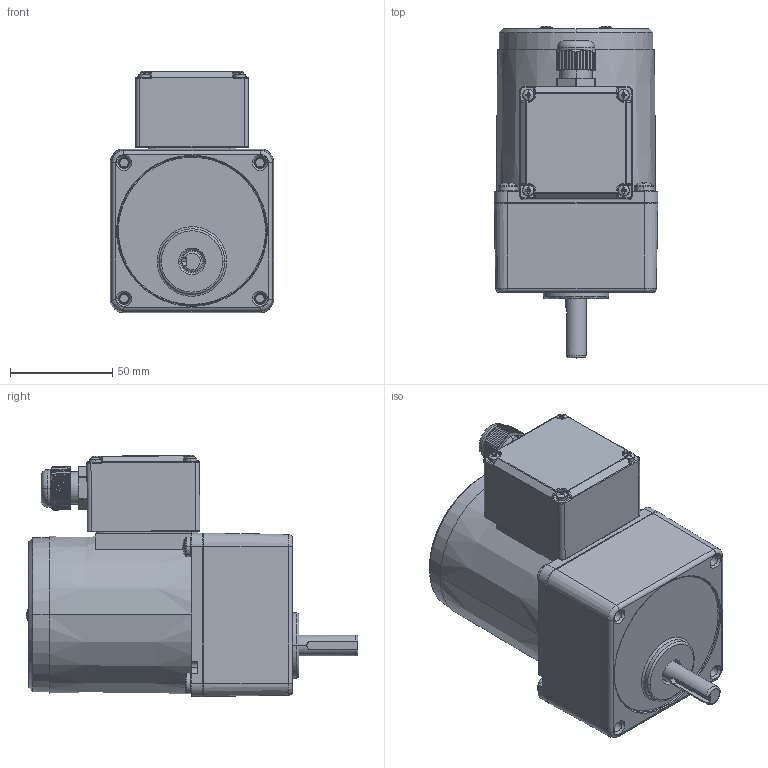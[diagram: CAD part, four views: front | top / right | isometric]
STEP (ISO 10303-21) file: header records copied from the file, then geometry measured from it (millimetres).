
FILE_DESCRIPTION (( 'STEP AP203' ), '1' );
FILE_NAME ('4RK25GN-CT(4GN3K-200K).STEP', '2022-10-28T05:31:47', ( 'Windows User' ), ( 'P R C' ), 'SwSTEP 2.0', 'SolidWorks 2019', '' );
FILE_SCHEMA (( 'CONFIG_CONTROL_DESIGN' ));
Length unit declared in the file: millimetre
Products named in the file (13): 4IK25GN-CT(4GN3K-200K).stp^4RK25GN-CT(4GN3K-200K)(2)_4RK25GN-CT(4GN3K-200K); PRT0011.stp^4IK25GN-CT(4GN3K-200K).stp_4RK25GN-CT(4GN3K-200K)(2)_4RK25GN-CT(4GN3K-200K); 4IK25GN-CT.stp^4IK25GN-CT(4GN3K-200K).stp_4RK25GN-CT(4GN3K-200K)(2)_4RK25GN-CT(4GN3K-200K); M5.stp^4IK25GN-CT(4GN3K-200K).stp_4RK25GN-CT(4GN3K-200K)(2)_4RK25GN-CT(4GN3K-200K); M3^4RK25GN-CT(4GN3K-200K)(2)_4RK25GN-CT(4GN3K-200K); 4RK25GN-CT(4GN3K-200K)(2)^4RK25GN-CT(4GN3K-200K); PRT0012.stp^4IK25GN-CT(4GN3K-200K).stp_4RK25GN-CT(4GN3K-200K)(2)_4RK25GN-CT(4GN3K-200K); M3.stp^4IK25GN-CT(4GN3K-200K).stp_4RK25GN-CT(4GN3K-200K)(2)_4RK25GN-CT(4GN3K-200K); SJQ.stp^4IK25GN-CT(4GN3K-200K).stp_4RK25GN-CT(4GN3K-200K)(2)_4RK25GN-CT(4GN3K-200K); 4GN3K-200K; PRT0013.stp^4IK25GN-CT(4GN3K-200K).stp_4RK25GN-CT(4GN3K-200K)(2)_4RK25GN-CT(4GN3K-200K); 80ZNGB^4RK25GN-CT(4GN3K-200K)(2)_4RK25GN-CT(4GN3K-200K); 4RK25GN-CT(4GN3K-200K)
Assembly tree (16 placements, depth 4):
  4RK25GN-CT(4GN3K-200K)
    4RK25GN-CT(4GN3K-200K)(2)^4RK25GN-CT(4GN3K-200K)
      4IK25GN-CT(4GN3K-200K).stp^4RK25GN-CT(4GN3K-200K)(2)_4RK25GN-CT(4GN3K-200K)
        4IK25GN-CT.stp^4IK25GN-CT(4GN3K-200K).stp_4RK25GN-CT(4GN3K-200K)(2)_4RK25GN-CT(4GN3K-200K)
        M3.stp^4IK25GN-CT(4GN3K-200K).stp_4RK25GN-CT(4GN3K-200K)(2)_4RK25GN-CT(4GN3K-200K)
        PRT0011.stp^4IK25GN-CT(4GN3K-200K).stp_4RK25GN-CT(4GN3K-200K)(2)_4RK25GN-CT(4GN3K-200K)
        PRT0012.stp^4IK25GN-CT(4GN3K-200K).stp_4RK25GN-CT(4GN3K-200K)(2)_4RK25GN-CT(4GN3K-200K)
        PRT0013.stp^4IK25GN-CT(4GN3K-200K).stp_4RK25GN-CT(4GN3K-200K)(2)_4RK25GN-CT(4GN3K-200K)
        SJQ.stp^4IK25GN-CT(4GN3K-200K).stp_4RK25GN-CT(4GN3K-200K)(2)_4RK25GN-CT(4GN3K-200K)
        M5.stp^4IK25GN-CT(4GN3K-200K).stp_4RK25GN-CT(4GN3K-200K)(2)_4RK25GN-CT(4GN3K-200K)  x4
      80ZNGB^4RK25GN-CT(4GN3K-200K)(2)_4RK25GN-CT(4GN3K-200K)
      M3^4RK25GN-CT(4GN3K-200K)(2)_4RK25GN-CT(4GN3K-200K)  x2
    4GN3K-200K
Bounding box: 80 x 162.35 x 117.95 mm (x, y, z)
Volume: 516744 mm3; surface area: 109302.3 mm2
Topology: 14 solids, 15 shells, 1965 faces, 5103 edges, 3169 vertices
Faces by surface type: cone 874, cylinder 648, plane 320, torus 66, bspline 29, sphere 28
Entity records: 44961 total; most frequent: CARTESIAN_POINT 10789, DIRECTION 7431, ORIENTED_EDGE 6724, EDGE_CURVE 3362, AXIS2_PLACEMENT_3D 3080, VERTEX_POINT 2110, CIRCLE 1774, EDGE_LOOP 1376
